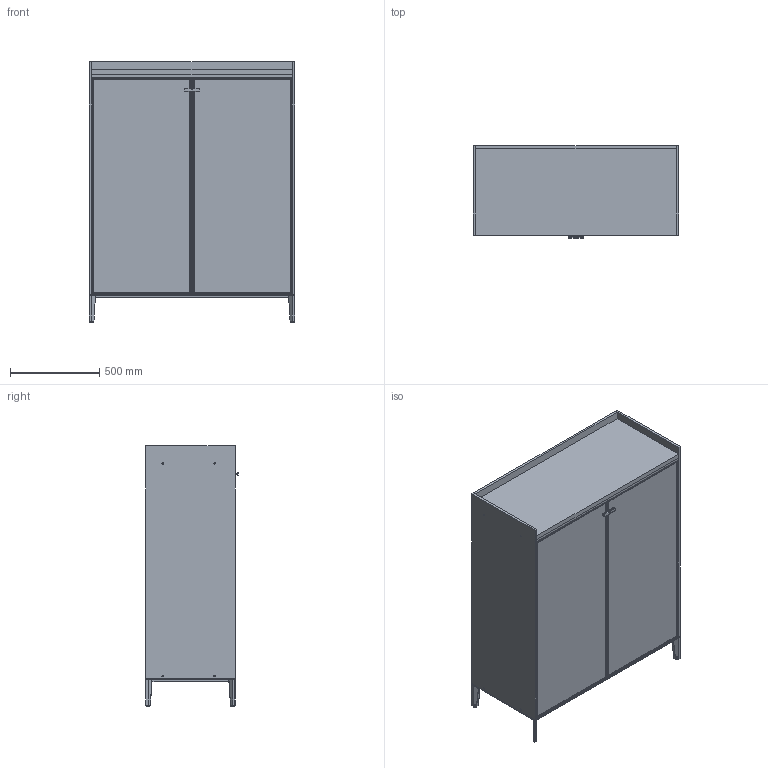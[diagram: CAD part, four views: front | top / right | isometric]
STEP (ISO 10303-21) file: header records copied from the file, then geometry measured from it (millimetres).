
FILE_DESCRIPTION(/* description */ (''),/* implementation_level */ '2;1');
FILE_NAME(/* name */ '3D_Segesta-115',/* time_stamp */ '2025-04-04T17:33:12+02:00',/* author */ (''),/* organization */ (''),/* preprocessor_version */ 'ST-DEVELOPER v16.5',/* originating_system */ '',/* authorisation */ '');
FILE_SCHEMA (('AUTOMOTIVE_DESIGN'));
Length unit declared in the file: millimetre
Products named in the file (1): Document
Bounding box: 1150 x 517.66 x 1455 mm (x, y, z)
Volume: 124465825.5 mm3; surface area: 18860403.2 mm2
Topology: 34 solids, 34 shells, 1156 faces, 3119 edges, 2012 vertices
Faces by surface type: bspline 631, plane 525
Entity records: 53814 total; most frequent: CARTESIAN_POINT 35110, ORIENTED_EDGE 6186, EDGE_CURVE 3093, VERTEX_POINT 2010, B_SPLINE_CURVE_WITH_KNOTS 1921, EDGE_LOOP 1233, ADVANCED_FACE 1156, FACE_OUTER_BOUND 1156
